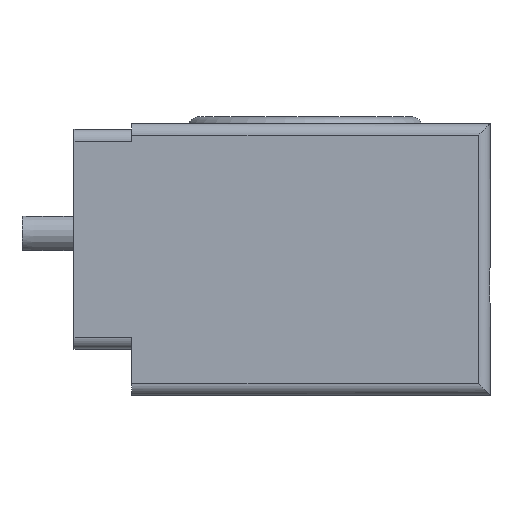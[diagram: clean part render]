
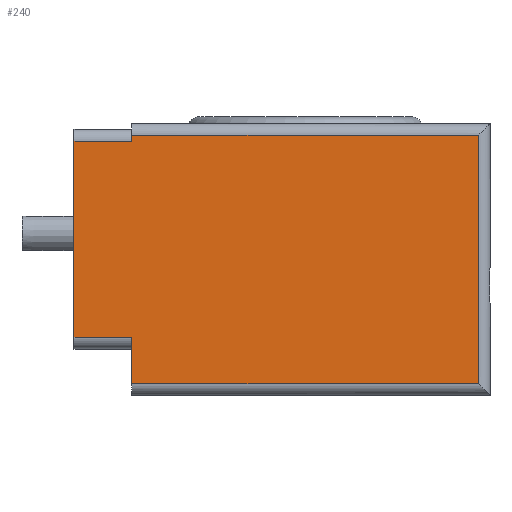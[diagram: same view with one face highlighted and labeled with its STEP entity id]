
A CAD part, left-side view. The second image highlights one B-rep face of the part: STEP entity #240.
In plain terms, the highlighted planar face has unit normal (-1, 0, 0).
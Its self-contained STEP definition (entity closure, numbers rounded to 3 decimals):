
#240=ADVANCED_FACE('',(#581),#582,.F.);
#581=FACE_OUTER_BOUND('',#1038,.T.);
#582=PLANE('',#1039);
#1038=EDGE_LOOP('',(#1652,#1653,#1654,#1655,#1656,#1657,#1658,#1659));
#1039=AXIS2_PLACEMENT_3D('',#1660,#1661,#1662);
#1652=ORIENTED_EDGE('',*,*,#2397,.T.);
#1653=ORIENTED_EDGE('',*,*,#2398,.T.);
#1654=ORIENTED_EDGE('',*,*,#2288,.T.);
#1655=ORIENTED_EDGE('',*,*,#2399,.T.);
#1656=ORIENTED_EDGE('',*,*,#2400,.T.);
#1657=ORIENTED_EDGE('',*,*,#2401,.T.);
#1658=ORIENTED_EDGE('',*,*,#2402,.T.);
#1659=ORIENTED_EDGE('',*,*,#2403,.T.);
#1660=CARTESIAN_POINT('',(-33.0,-5.0,9.5));
#1661=DIRECTION('',(1.0,0.0,0.0));
#1662=DIRECTION('',(0.0,1.0,0.0));
#2288=EDGE_CURVE('',#2645,#2646,#2647,.T.);
#2397=EDGE_CURVE('',#2810,#2811,#2812,.T.);
#2398=EDGE_CURVE('',#2811,#2645,#2813,.T.);
#2399=EDGE_CURVE('',#2646,#2814,#2815,.T.);
#2400=EDGE_CURVE('',#2814,#2816,#2817,.T.);
#2401=EDGE_CURVE('',#2816,#2818,#2819,.T.);
#2402=EDGE_CURVE('',#2818,#2820,#2821,.T.);
#2403=EDGE_CURVE('',#2820,#2810,#2822,.T.);
#2645=VERTEX_POINT('',#3226);
#2646=VERTEX_POINT('',#3227);
#2647=LINE('',#3228,#3229);
#2810=VERTEX_POINT('',#3427);
#2811=VERTEX_POINT('',#3428);
#2812=LINE('',#3429,#3430);
#2813=LINE('',#3431,#3432);
#2814=VERTEX_POINT('',#3433);
#2815=LINE('',#3434,#3435);
#2816=VERTEX_POINT('',#3436);
#2817=LINE('',#3437,#3438);
#2818=VERTEX_POINT('',#3439);
#2819=LINE('',#3440,#3441);
#2820=VERTEX_POINT('',#3442);
#2821=LINE('',#3443,#3444);
#2822=LINE('',#3445,#3446);
#3226=CARTESIAN_POINT('',(-33.0,-35.0,8.5));
#3227=CARTESIAN_POINT('',(-33.0,-5.0,8.5));
#3228=CARTESIAN_POINT('',(-33.0,-5.0,8.5));
#3229=VECTOR('',#3911,1.0);
#3427=CARTESIAN_POINT('',(-33.0,-5.0,-13.0));
#3428=CARTESIAN_POINT('',(-33.0,-35.0,-13.0));
#3429=CARTESIAN_POINT('',(-33.0,-5.0,-13.0));
#3430=VECTOR('',#4046,1.0);
#3431=CARTESIAN_POINT('',(-33.0,-35.0,9.5));
#3432=VECTOR('',#4047,1.0);
#3433=CARTESIAN_POINT('',(-33.0,-5.0,8.0));
#3434=CARTESIAN_POINT('',(-33.0,-5.0,9.5));
#3435=VECTOR('',#4048,1.0);
#3436=CARTESIAN_POINT('',(-33.0,0.,8.0));
#3437=CARTESIAN_POINT('',(-33.0,-5.0,8.0));
#3438=VECTOR('',#4049,1.0);
#3439=CARTESIAN_POINT('',(-33.0,0.,-9.0));
#3440=CARTESIAN_POINT('',(-33.0,0.,9.0));
#3441=VECTOR('',#4050,1.0);
#3442=CARTESIAN_POINT('',(-33.0,-5.0,-9.0));
#3443=CARTESIAN_POINT('',(-33.0,-5.0,-9.0));
#3444=VECTOR('',#4051,1.0);
#3445=CARTESIAN_POINT('',(-33.0,-5.0,9.5));
#3446=VECTOR('',#4052,1.0);
#3911=DIRECTION('',(0.0,1.0,0.0));
#4046=DIRECTION('',(0.0,-1.0,0.0));
#4047=DIRECTION('',(0.0,0.0,1.0));
#4048=DIRECTION('',(0.0,0.0,-1.0));
#4049=DIRECTION('',(0.0,1.0,0.0));
#4050=DIRECTION('',(0.0,0.0,-1.0));
#4051=DIRECTION('',(0.0,-1.0,0.0));
#4052=DIRECTION('',(0.0,0.0,-1.0));
